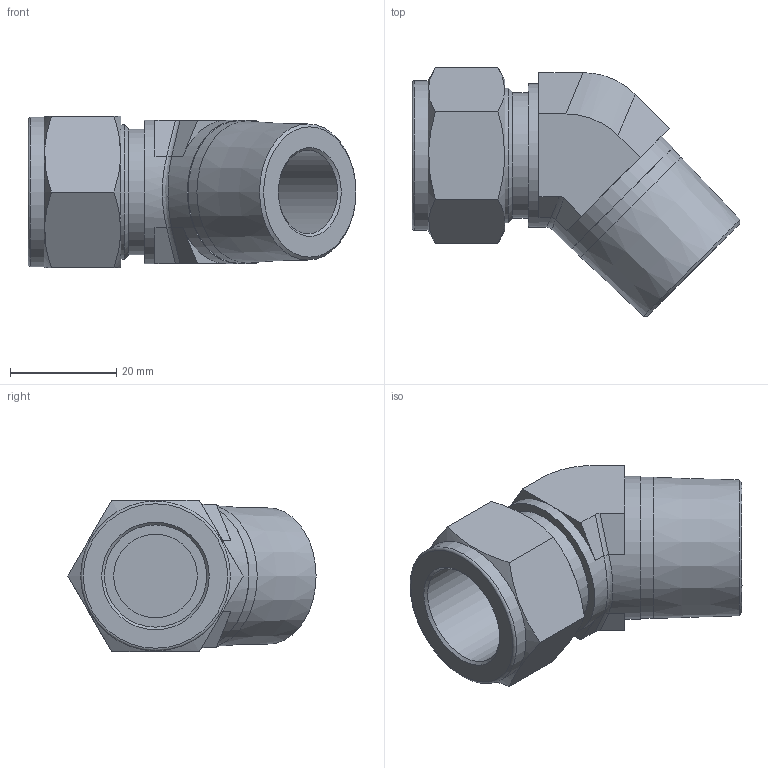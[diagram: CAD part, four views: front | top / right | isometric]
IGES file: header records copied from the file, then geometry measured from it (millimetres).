
Global section: file name: No Iges File Name specified; native system: Autodesk Inventor 2012; preprocessor: AutoDesk Inventor Iges Exporter R2012; author: 硅己绕,,1; organization: 1; date: 20150603.092104; units: millimetre
Bounding box: 61.75 x 46.75 x 28.57 mm (x, y, z)
Volume: 25172.1 mm3; surface area: 9766.3 mm2
Topology: 1 solids, 1 shells, 57 faces, 121 edges, 73 vertices
Faces by surface type: plane 35, cylinder 8, revolution 7, cone 5, bspline 1, torus 1
Full cylindrical faces by diameter (mm): 23.7 x1, 25.4 x1, 26.67 x1, 27 x2, 28.2 x1
